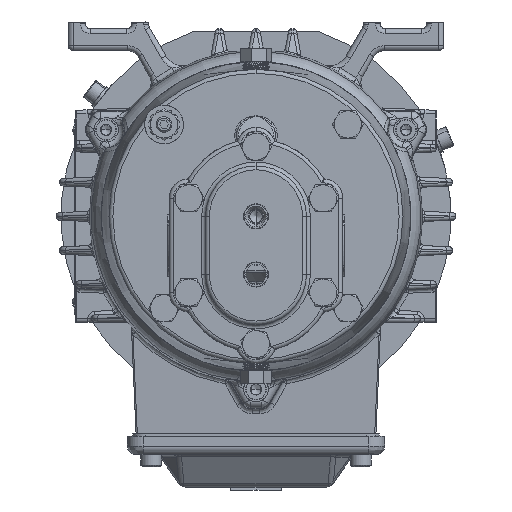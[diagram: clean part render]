
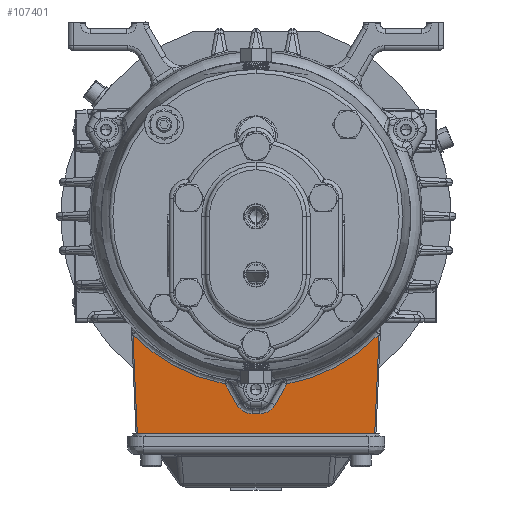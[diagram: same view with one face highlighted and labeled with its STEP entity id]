
A CAD part, front view. The second image highlights one B-rep face of the part: STEP entity #107401.
In plain terms, the highlighted planar face has unit normal (0, -0.999, -0.044).
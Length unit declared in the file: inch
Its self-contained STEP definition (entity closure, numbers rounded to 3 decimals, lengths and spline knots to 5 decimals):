
#2905 = VERTEX_POINT ( 'NONE', #122238 ) ;
#5406 = CARTESIAN_POINT ( 'NONE',  ( 0.30218, 7.48888, -2.57875 ) ) ;
#5675 = ORIENTED_EDGE ( 'NONE', *, *, #135217, .T. ) ;
#8137 = EDGE_CURVE ( 'NONE', #59895, #2905, #92794, .T. ) ;
#8438 = ORIENTED_EDGE ( 'NONE', *, *, #147804, .T. ) ;
#10231 = LINE ( 'NONE', #53649, #114520 ) ;
#16942 = DIRECTION ( 'NONE',  ( 1., 0., 0. ) ) ;
#17318 = AXIS2_PLACEMENT_3D ( 'NONE', #171152, #44575, #16942 ) ;
#20517 = EDGE_LOOP ( 'NONE', ( #164965, #59254, #166155, #5675, #96721, #140667, #8438, #141575, #58229, #110019 ) ) ;
#20722 = CARTESIAN_POINT ( 'NONE',  ( -0.49895, 7.474, -2.23793 ) ) ;
#21665 = VERTEX_POINT ( 'NONE', #162340 ) ;
#22642 = CARTESIAN_POINT ( 'NONE',  ( 1.90584, 7.52102, -3.31484 ) ) ;
#25167 = LINE ( 'NONE', #138728, #75373 ) ;
#33383 = CARTESIAN_POINT ( 'NONE',  ( 0.49895, 7.474, -2.23793 ) ) ;
#37478 = LINE ( 'NONE', #93819, #139880 ) ;
#39261 = CARTESIAN_POINT ( 'NONE',  ( 0.49895, 7.474, -2.23793 ) ) ;
#44297 = VERTEX_POINT ( 'NONE', #94717 ) ;
#44575 = DIRECTION ( 'NONE',  ( 0., -0.999, -0.044 ) ) ;
#48271 = VERTEX_POINT ( 'NONE', #62519 ) ;
#48360 = CARTESIAN_POINT ( 'NONE',  ( -1.5845, 7.45734, -1.85642 ) ) ;
#53649 = CARTESIAN_POINT ( 'NONE',  ( -0.4975, 7.47411, -2.24045 ) ) ;
#58229 = ORIENTED_EDGE ( 'NONE', *, *, #66047, .T. ) ;
#59254 = ORIENTED_EDGE ( 'NONE', *, *, #139140, .T. ) ;
#59895 = VERTEX_POINT ( 'NONE', #81757 ) ;
#60583 = EDGE_CURVE ( 'NONE', #48271, #112197, #37478, .T. ) ;
#62519 = CARTESIAN_POINT ( 'NONE',  ( -1.98786, 7.439, -1.43634 ) ) ;
#63310 =( BOUNDED_CURVE ( )  B_SPLINE_CURVE ( 3, ( #5406, #174342, #119915, #175262 ),
 .UNSPECIFIED., .F., .F. ) 
 B_SPLINE_CURVE_WITH_KNOTS ( ( 4, 4 ),
 ( 2.0944, 3.14159 ),
 .UNSPECIFIED. ) 
 CURVE ( )  GEOMETRIC_REPRESENTATION_ITEM ( )  RATIONAL_B_SPLINE_CURVE ( ( 1., 0.911, 0.911, 1. ) ) 
 REPRESENTATION_ITEM ( '' )  );
#65913 = CARTESIAN_POINT ( 'NONE',  ( -0.06351, 7.4949, -2.71654 ) ) ;
#66047 = EDGE_CURVE ( 'NONE', #21665, #160825, #10231, .T. ) ;
#66363 = CARTESIAN_POINT ( 'NONE',  ( -0.06351, 7.4949, -2.71654 ) ) ;
#67019 = VERTEX_POINT ( 'NONE', #39261 ) ;
#71639 = VECTOR ( 'NONE', #118129, 39.37008 ) ;
#75109 = VECTOR ( 'NONE', #78919, 39.37008 ) ;
#75373 = VECTOR ( 'NONE', #125797, 39.37008 ) ;
#78919 = DIRECTION ( 'NONE',  ( 0.044, -0.044, 0.998 ) ) ;
#81608 = CARTESIAN_POINT ( 'NONE',  ( -0.30218, 7.48888, -2.57875 ) ) ;
#81757 = CARTESIAN_POINT ( 'NONE',  ( 1.91763, 7.50923, -3.04478 ) ) ;
#82250 = DIRECTION ( 'NONE',  ( -0.5, -0.038, 0.865 ) ) ;
#88175 = CARTESIAN_POINT ( 'NONE',  ( -1.98786, 7.439, -1.43634 ) ) ;
#89367 = EDGE_CURVE ( 'NONE', #67019, #108824, #124003, .T. ) ;
#92794 = LINE ( 'NONE', #22642, #75109 ) ;
#93819 = CARTESIAN_POINT ( 'NONE',  ( -1.90584, 7.52102, -3.31484 ) ) ;
#94717 = CARTESIAN_POINT ( 'NONE',  ( 0.06351, 7.4949, -2.71654 ) ) ;
#95499 = CARTESIAN_POINT ( 'NONE',  ( -0.25175, 7.4927, -2.66611 ) ) ;
#96721 = ORIENTED_EDGE ( 'NONE', *, *, #89367, .T. ) ;
#101518 = LINE ( 'NONE', #132856, #71639 ) ;
#102194 = VERTEX_POINT ( 'NONE', #66363 ) ;
#103470 = CARTESIAN_POINT ( 'NONE',  ( -1.91763, 7.50923, -3.04478 ) ) ;
#103998 = DIRECTION ( 'NONE',  ( 0.044, 0.044, -0.998 ) ) ;
#104462 = CARTESIAN_POINT ( 'NONE',  ( 1.07171, 7.4694, -2.13249 ) ) ;
#107401 = ADVANCED_FACE ( 'NONE', ( #170258 ), #173843, .T. ) ;
#108802 = EDGE_CURVE ( 'NONE', #108824, #44297, #63310, .T. ) ;
#108824 = VERTEX_POINT ( 'NONE', #163288 ) ;
#110019 = ORIENTED_EDGE ( 'NONE', *, *, #168240, .T. ) ;
#112197 = VERTEX_POINT ( 'NONE', #103470 ) ;
#114520 = VECTOR ( 'NONE', #82250, 39.37008 ) ;
#115873 = CARTESIAN_POINT ( 'NONE',  ( -0.49895, 7.474, -2.23793 ) ) ;
#118129 = DIRECTION ( 'NONE',  ( 1., 0., 0. ) ) ;
#118373 = CARTESIAN_POINT ( 'NONE',  ( 1.5845, 7.45734, -1.85642 ) ) ;
#119915 = CARTESIAN_POINT ( 'NONE',  ( 0.16439, 7.4949, -2.71654 ) ) ;
#120577 = EDGE_CURVE ( 'NONE', #102194, #21665, #180329, .T. ) ;
#122238 = CARTESIAN_POINT ( 'NONE',  ( 1.98786, 7.439, -1.43634 ) ) ;
#124003 = LINE ( 'NONE', #177544, #124676 ) ;
#124676 = VECTOR ( 'NONE', #151712, 39.37008 ) ;
#125797 = DIRECTION ( 'NONE',  ( -1., 0., 0. ) ) ;
#132856 = CARTESIAN_POINT ( 'NONE',  ( 0., 7.50923, -3.04478 ) ) ;
#135217 = EDGE_CURVE ( 'NONE', #2905, #67019, #161833, .T. ) ;
#138728 = CARTESIAN_POINT ( 'NONE',  ( -0.06351, 7.4949, -2.71654 ) ) ;
#139140 = EDGE_CURVE ( 'NONE', #112197, #59895, #101518, .T. ) ;
#139880 = VECTOR ( 'NONE', #103998, 39.37008 ) ;
#140667 = ORIENTED_EDGE ( 'NONE', *, *, #108802, .T. ) ;
#141575 = ORIENTED_EDGE ( 'NONE', *, *, #120577, .T. ) ;
#146387 = CARTESIAN_POINT ( 'NONE',  ( -1.07171, 7.4694, -2.13249 ) ) ;
#147804 = EDGE_CURVE ( 'NONE', #44297, #102194, #25167, .T. ) ;
#151712 = DIRECTION ( 'NONE',  ( -0.5, 0.038, -0.865 ) ) ;
#160825 = VERTEX_POINT ( 'NONE', #115873 ) ;
#161833 =( BOUNDED_CURVE ( )  B_SPLINE_CURVE ( 3, ( #173728, #118373, #104462, #33383 ),
 .UNSPECIFIED., .F., .T. ) 
 B_SPLINE_CURVE_WITH_KNOTS ( ( 4, 4 ),
 ( 5.4775, 6.10113 ),
 .UNSPECIFIED. ) 
 CURVE ( )  GEOMETRIC_REPRESENTATION_ITEM ( )  RATIONAL_B_SPLINE_CURVE ( ( 1., 0.968, 0.968, 1. ) ) 
 REPRESENTATION_ITEM ( '' )  );
#162340 = CARTESIAN_POINT ( 'NONE',  ( -0.30218, 7.48888, -2.57875 ) ) ;
#162965 = CARTESIAN_POINT ( 'NONE',  ( -0.16439, 7.4949, -2.71654 ) ) ;
#163288 = CARTESIAN_POINT ( 'NONE',  ( 0.30218, 7.48888, -2.57875 ) ) ;
#163466 =( BOUNDED_CURVE ( )  B_SPLINE_CURVE ( 3, ( #20722, #146387, #48360, #88175 ),
 .UNSPECIFIED., .F., .F. ) 
 B_SPLINE_CURVE_WITH_KNOTS ( ( 4, 4 ),
 ( 0.18205, 0.80569 ),
 .UNSPECIFIED. ) 
 CURVE ( )  GEOMETRIC_REPRESENTATION_ITEM ( )  RATIONAL_B_SPLINE_CURVE ( ( 1., 0.968, 0.968, 1. ) ) 
 REPRESENTATION_ITEM ( '' )  );
#164965 = ORIENTED_EDGE ( 'NONE', *, *, #60583, .T. ) ;
#166155 = ORIENTED_EDGE ( 'NONE', *, *, #8137, .T. ) ;
#168240 = EDGE_CURVE ( 'NONE', #160825, #48271, #163466, .T. ) ;
#170258 = FACE_OUTER_BOUND ( 'NONE', #20517, .T. ) ;
#171152 = CARTESIAN_POINT ( 'NONE',  ( 0., 7.51739, -3.23179 ) ) ;
#173728 = CARTESIAN_POINT ( 'NONE',  ( 1.98786, 7.439, -1.43634 ) ) ;
#173843 = PLANE ( 'NONE',  #17318 ) ;
#174342 = CARTESIAN_POINT ( 'NONE',  ( 0.25175, 7.4927, -2.66611 ) ) ;
#175262 = CARTESIAN_POINT ( 'NONE',  ( 0.06351, 7.4949, -2.71654 ) ) ;
#177544 = CARTESIAN_POINT ( 'NONE',  ( 0.30073, 7.48899, -2.58127 ) ) ;
#180329 =( BOUNDED_CURVE ( )  B_SPLINE_CURVE ( 3, ( #65913, #162965, #95499, #81608 ),
 .UNSPECIFIED., .F., .F. ) 
 B_SPLINE_CURVE_WITH_KNOTS ( ( 4, 4 ),
 ( 3.14159, 4.18879 ),
 .UNSPECIFIED. ) 
 CURVE ( )  GEOMETRIC_REPRESENTATION_ITEM ( )  RATIONAL_B_SPLINE_CURVE ( ( 1., 0.911, 0.911, 1. ) ) 
 REPRESENTATION_ITEM ( '' )  );
